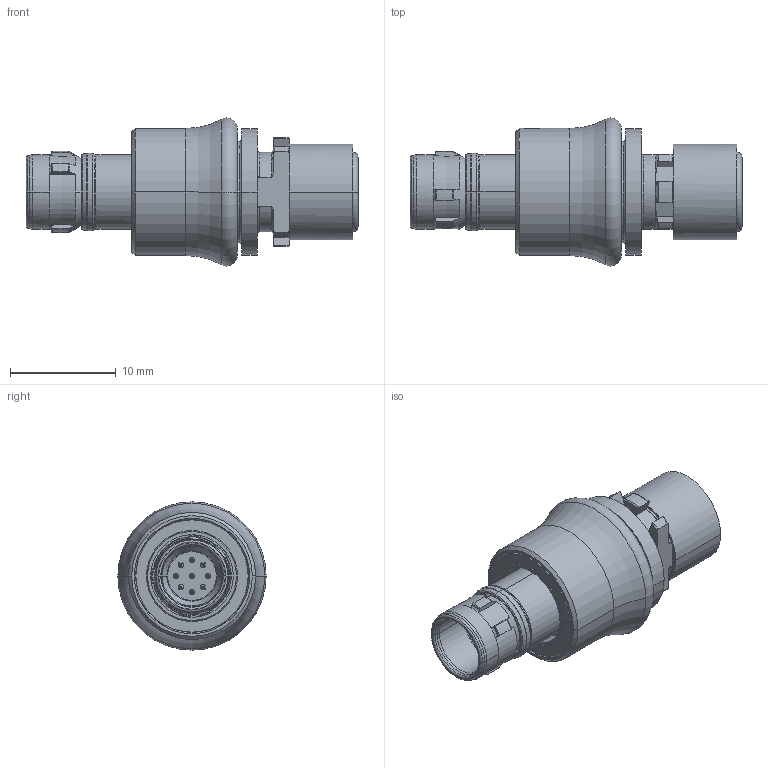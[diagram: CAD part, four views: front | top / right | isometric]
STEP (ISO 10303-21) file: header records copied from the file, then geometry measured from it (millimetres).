
FILE_DESCRIPTION((''),'2;1');
FILE_NAME('00050370--','2020-10-27T09:34:22',('EUnterhaslberger'),(''),'CREO PARAMETRIC BY PTC INC, 2018300','CREO PARAMETRIC BY PTC INC, 2018300','');
FILE_SCHEMA(('AP242_MANAGED_MODEL_BASED_3D_ENGINEERING_MIM_LF { 1 0 10303 442 1 1 4 }'));
Length unit declared in the file: millimetre
Products named in the file (1): 00050370--
Bounding box: 31.35 x 14 x 14 mm (x, y, z)
Volume: 1646.1 mm3; surface area: 3672.5 mm2
Topology: 1 solids, 1 shells, 739 faces, 1961 edges, 1233 vertices
Faces by surface type: cylinder 262, plane 191, torus 140, cone 110, bspline 18, sphere 18
Entity records: 29950 total; most frequent: CARTESIAN_POINT 6181, DIRECTION 4067, ORIENTED_EDGE 3850, EDGE_CURVE 1925, AXIS2_PLACEMENT_3D 1720, VERTEX_POINT 1233, CIRCLE 999, EDGE_LOOP 812
